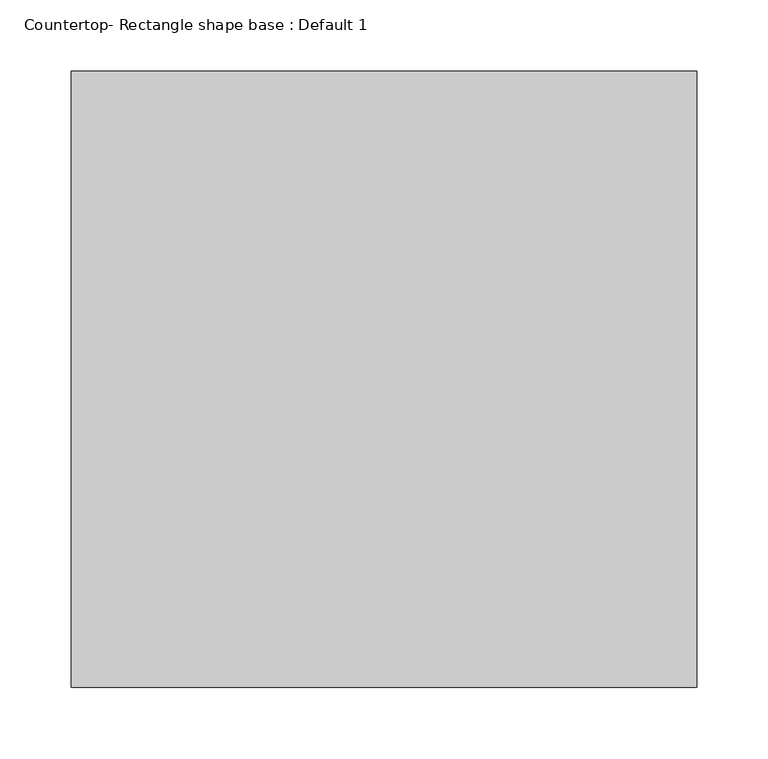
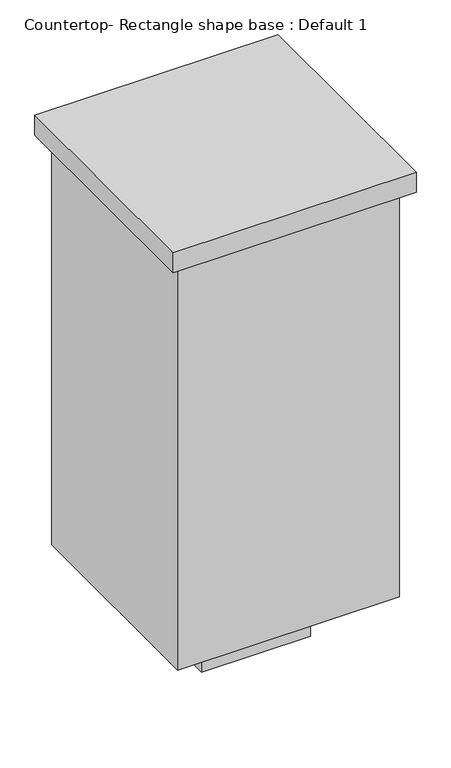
"""IFC4 building model written with IfcOpenShell, lengths in millimetres: proxy geometry, Countertop- Rectangle shape base : Default 1."""

from ifc_helpers import new_model, si_unit, frame, origin, origin_with_axes, place, context, project, spatial, polyline, outline, extrude, source, transform, mapped, element, save


def countertop_rectangle_shape_base_default_1_dfdfaf2e(model_context):
    return source(origin(), model_context, "Body", "SweptSolid", [
        extrude(outline(polyline([(542.925, 165.1), (542.925, 596.9), (981.075, 596.9), (981.075, 165.1), (542.925, 165.1)])), frame((0.0, 0.0, 876.3), z_axis=(0.0, 0.0, 1.0), x_axis=(1.0, 0.0, 0.0)), (0.0, 0.0, 1.0), 38.1),
        extrude(outline(polyline([(962.025, 577.85), (962.025, 184.15), (561.975, 184.15), (561.975, 577.85), (962.025, 577.85)])), frame((0.0, 0.0, 101.6), z_axis=(0.0, 0.0, 1.0), x_axis=(1.0, 0.0, 0.0)), (0.0, 0.0, 1.0), 774.7),
        extrude(outline(polyline([(860.425, 476.25), (860.425, 285.75), (663.575, 285.75), (663.575, 476.25), (860.425, 476.25)])), origin_with_axes(), (0.0, 0.0, 1.0), 101.6),
    ])


if __name__ == "__main__":
    model = new_model("IFC4")
    model_context = context("Model", 3, world=origin())
    ifc_project = project(units=[si_unit("LENGTHUNIT", "METRE", prefix="MILLI")], contexts=[model_context])
    site = spatial("IfcSite", under=ifc_project)
    building = spatial("IfcBuilding", under=site)
    placement = place(None, origin())
    countertop_rectangle_shape_base_default_1_shape = countertop_rectangle_shape_base_default_1_dfdfaf2e(model_context)
    element("IfcBuildingElementProxy", 1, Name="Countertop- Rectangle shape base : Default 1", ObjectType="Countertop- Rectangle shape base : Default 1", at=placement, inside=building, context=model_context, shape_type="MappedRepresentation", body=[
        mapped(countertop_rectangle_shape_base_default_1_shape, transform((0.0, 0.0, 0.0), x_axis=(1.0, 0.0, 0.0), y_axis=(0.0, 1.0, 0.0), z_axis=(0.0, 0.0, 1.0))),
    ])
    save(model, "model.ifc")
